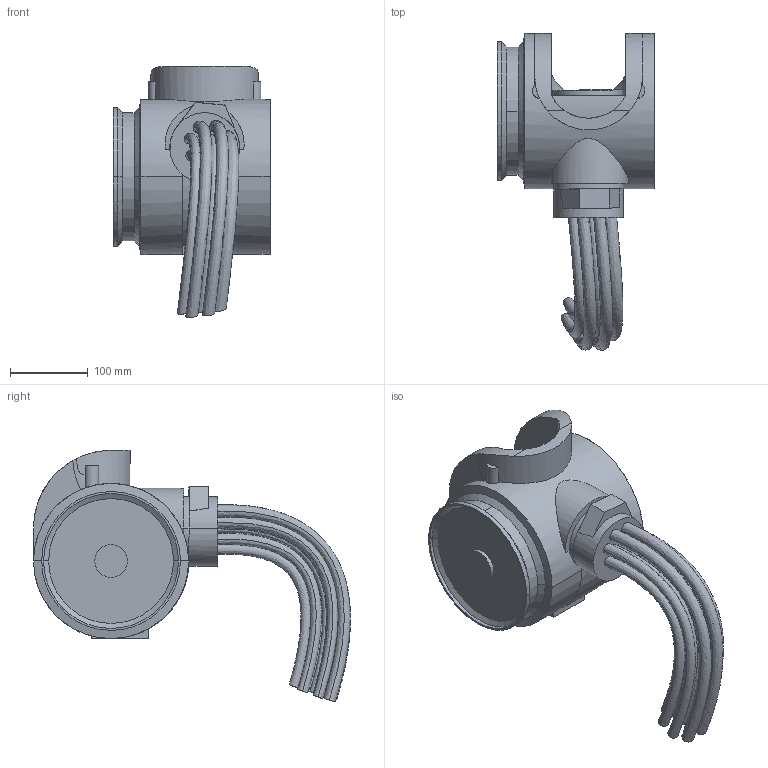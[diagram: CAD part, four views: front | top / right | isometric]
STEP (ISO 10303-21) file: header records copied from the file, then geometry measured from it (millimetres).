
FILE_DESCRIPTION (( 'STEP AP203' ), '1' );
FILE_NAME ('IRB6700-MH6_220-300_IRC5_rev01_LINK06_CABLE.STEP', '2014-08-27T11:26:47', ( 'ABB' ), ( 'ABB' ), 'SwSTEP 2.0', 'SolidWorks 2012', '' );
FILE_SCHEMA (( 'CONFIG_CONTROL_DESIGN' ));
Length unit declared in the file: millimetre
Products named in the file (1): IRB6700-MH6_220-300_IRC5_rev01_LINK06_CABLE
Bounding box: 203.5 x 408.72 x 323.75 mm (x, y, z)
Volume: 5865228 mm3; surface area: 421365.8 mm2
Topology: 1 solids, 1 shells, 204 faces, 474 edges, 295 vertices
Faces by surface type: cylinder 66, plane 61, cone 45, bspline 28, torus 4
Entity records: 11065 total; most frequent: CARTESIAN_POINT 6649, ORIENTED_EDGE 940, DIRECTION 844, EDGE_CURVE 470, AXIS2_PLACEMENT_3D 337, VERTEX_POINT 295, EDGE_LOOP 233, FACE_OUTER_BOUND 204
